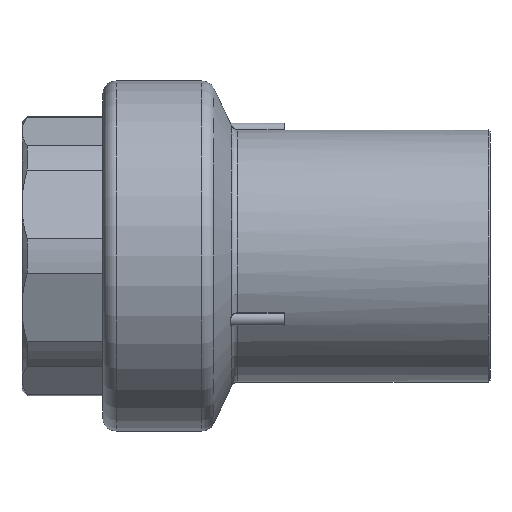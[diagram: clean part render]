
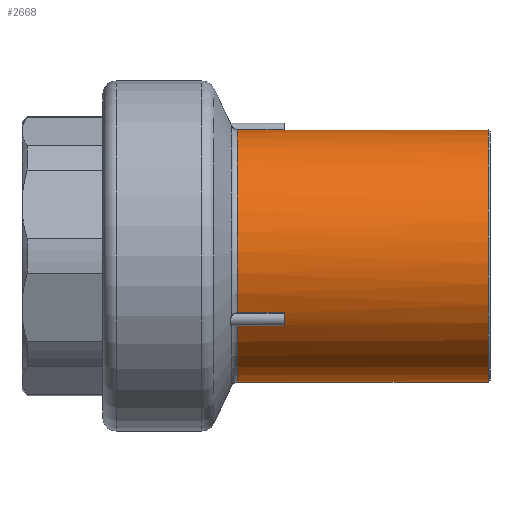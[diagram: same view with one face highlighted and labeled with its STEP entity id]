
A CAD part, front view. The second image highlights one B-rep face of the part: STEP entity #2668.
In plain terms, the highlighted cylindrical face has radius 37.5 mm (diameter 75 mm), a full revolution.
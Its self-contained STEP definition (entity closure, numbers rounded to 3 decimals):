
#65=B_SPLINE_CURVE_WITH_KNOTS('',3,(#4880,#4881,#4882,#4883),
 .UNSPECIFIED.,.F.,.F.,(4,4),(0.,0.),.UNSPECIFIED.);
#66=B_SPLINE_CURVE_WITH_KNOTS('',3,(#4896,#4897,#4898,#4899),
 .UNSPECIFIED.,.F.,.F.,(4,4),(0.,0.),.UNSPECIFIED.);
#75=B_SPLINE_CURVE_WITH_KNOTS('',3,(#5046,#5047,#5048,#5049),
 .UNSPECIFIED.,.F.,.F.,(4,4),(0.,0.),.UNSPECIFIED.);
#76=B_SPLINE_CURVE_WITH_KNOTS('',3,(#5062,#5063,#5064,#5065),
 .UNSPECIFIED.,.F.,.F.,(4,4),(0.,0.),.UNSPECIFIED.);
#79=B_SPLINE_CURVE_WITH_KNOTS('',3,(#5091,#5092,#5093,#5094),
 .UNSPECIFIED.,.F.,.F.,(4,4),(0.,0.),.UNSPECIFIED.);
#80=B_SPLINE_CURVE_WITH_KNOTS('',3,(#5098,#5099,#5100,#5101),
 .UNSPECIFIED.,.F.,.F.,(4,4),(0.,0.),.UNSPECIFIED.);
#177=LINE('',#4812,#341);
#180=LINE('',#4867,#344);
#181=LINE('',#4984,#345);
#184=LINE('',#5033,#348);
#185=LINE('',#5089,#349);
#186=LINE('',#5103,#350);
#341=VECTOR('',#3936,1000.);
#344=VECTOR('',#3961,1000.);
#345=VECTOR('',#3982,1000.);
#348=VECTOR('',#4007,1000.);
#349=VECTOR('',#4024,1000.);
#350=VECTOR('',#4027,1000.);
#869=ORIENTED_EDGE('',*,*,#1473,.F.);
#870=ORIENTED_EDGE('',*,*,#1478,.T.);
#871=ORIENTED_EDGE('',*,*,#1479,.F.);
#872=ORIENTED_EDGE('',*,*,#1480,.T.);
#873=ORIENTED_EDGE('',*,*,#1481,.F.);
#874=ORIENTED_EDGE('',*,*,#1482,.T.);
#875=ORIENTED_EDGE('',*,*,#1445,.F.);
#876=ORIENTED_EDGE('',*,*,#1456,.T.);
#877=ORIENTED_EDGE('',*,*,#1471,.F.);
#878=ORIENTED_EDGE('',*,*,#1461,.T.);
#879=ORIENTED_EDGE('',*,*,#1472,.F.);
#880=ORIENTED_EDGE('',*,*,#1470,.T.);
#881=ORIENTED_EDGE('',*,*,#1416,.F.);
#882=ORIENTED_EDGE('',*,*,#1427,.T.);
#883=ORIENTED_EDGE('',*,*,#1443,.F.);
#884=ORIENTED_EDGE('',*,*,#1433,.T.);
#885=ORIENTED_EDGE('',*,*,#1444,.F.);
#886=ORIENTED_EDGE('',*,*,#1442,.T.);
#887=ORIENTED_EDGE('',*,*,#1483,.T.);
#1416=EDGE_CURVE('',#1767,#1768,#1994,.T.);
#1427=EDGE_CURVE('',#1767,#1776,#177,.F.);
#1433=EDGE_CURVE('',#1781,#1780,#2002,.F.);
#1442=EDGE_CURVE('',#1784,#1777,#180,.T.);
#1443=EDGE_CURVE('',#1781,#1776,#65,.T.);
#1444=EDGE_CURVE('',#1784,#1780,#66,.T.);
#1445=EDGE_CURVE('',#1785,#1786,#2008,.T.);
#1456=EDGE_CURVE('',#1785,#1793,#181,.F.);
#1461=EDGE_CURVE('',#1797,#1796,#2016,.F.);
#1470=EDGE_CURVE('',#1800,#1768,#184,.T.);
#1471=EDGE_CURVE('',#1797,#1793,#75,.T.);
#1472=EDGE_CURVE('',#1800,#1796,#76,.T.);
#1473=EDGE_CURVE('',#1801,#1777,#2022,.T.);
#1478=EDGE_CURVE('',#1801,#1804,#185,.F.);
#1479=EDGE_CURVE('',#1805,#1804,#79,.T.);
#1480=EDGE_CURVE('',#1805,#1806,#2025,.F.);
#1481=EDGE_CURVE('',#1807,#1806,#80,.T.);
#1482=EDGE_CURVE('',#1807,#1786,#186,.T.);
#1483=EDGE_CURVE('',#1808,#1808,#2026,.F.);
#1767=VERTEX_POINT('',#4731);
#1768=VERTEX_POINT('',#4732);
#1776=VERTEX_POINT('',#4811);
#1777=VERTEX_POINT('',#4830);
#1780=VERTEX_POINT('',#4845);
#1781=VERTEX_POINT('',#4847);
#1784=VERTEX_POINT('',#4865);
#1785=VERTEX_POINT('',#4904);
#1786=VERTEX_POINT('',#4905);
#1793=VERTEX_POINT('',#4983);
#1796=VERTEX_POINT('',#5011);
#1797=VERTEX_POINT('',#5013);
#1800=VERTEX_POINT('',#5031);
#1801=VERTEX_POINT('',#5070);
#1804=VERTEX_POINT('',#5090);
#1805=VERTEX_POINT('',#5095);
#1806=VERTEX_POINT('',#5097);
#1807=VERTEX_POINT('',#5102);
#1808=VERTEX_POINT('',#5105);
#1994=CIRCLE('',#3424,37.5);
#2002=CIRCLE('',#3434,37.5);
#2008=CIRCLE('',#3445,37.5);
#2016=CIRCLE('',#3455,37.5);
#2022=CIRCLE('',#3466,37.5);
#2025=CIRCLE('',#3471,37.5);
#2026=CIRCLE('',#3472,37.5);
#2212=EDGE_LOOP('',(#869,#870,#871,#872,#873,#874,#875,#876,#877,#878,#879,
#880,#881,#882,#883,#884,#885,#886));
#2213=EDGE_LOOP('',(#887));
#2430=FACE_BOUND('',#2212,.T.);
#2431=FACE_BOUND('',#2213,.T.);
#2568=CYLINDRICAL_SURFACE('',#3470,37.5);
#2668=ADVANCED_FACE('',(#2430,#2431),#2568,.T.);
#3424=AXIS2_PLACEMENT_3D('',#4730,#3922,#3923);
#3434=AXIS2_PLACEMENT_3D('',#4846,#3944,#3945);
#3445=AXIS2_PLACEMENT_3D('',#4903,#3968,#3969);
#3455=AXIS2_PLACEMENT_3D('',#5012,#3990,#3991);
#3466=AXIS2_PLACEMENT_3D('',#5069,#4014,#4015);
#3470=AXIS2_PLACEMENT_3D('',#5088,#4022,#4023);
#3471=AXIS2_PLACEMENT_3D('',#5096,#4025,#4026);
#3472=AXIS2_PLACEMENT_3D('',#5104,#4028,#4029);
#3922=DIRECTION('',(-1.,0.,0.));
#3923=DIRECTION('',(0.,0.,1.));
#3936=DIRECTION('',(-1.,0.,0.));
#3944=DIRECTION('',(-1.,0.,0.));
#3945=DIRECTION('',(0.,0.5,0.866));
#3961=DIRECTION('',(-1.,0.,0.));
#3968=DIRECTION('',(-1.,0.,0.));
#3969=DIRECTION('',(0.,0.,1.));
#3982=DIRECTION('',(-1.,0.,0.));
#3990=DIRECTION('',(-1.,0.,0.));
#3991=DIRECTION('',(0.,0.5,-0.866));
#4007=DIRECTION('',(-1.,0.,0.));
#4014=DIRECTION('',(-1.,0.,0.));
#4015=DIRECTION('',(0.,0.,1.));
#4022=DIRECTION('',(-1.,0.,0.));
#4023=DIRECTION('',(0.,0.,1.));
#4024=DIRECTION('',(-1.,0.,0.));
#4025=DIRECTION('',(-1.,0.,0.));
#4026=DIRECTION('',(0.,-1.,0.));
#4027=DIRECTION('',(-1.,0.,0.));
#4028=DIRECTION('',(1.,0.,0.));
#4029=DIRECTION('',(0.,0.,-1.));
#4730=CARTESIAN_POINT('',(40.,0.,0.));
#4731=CARTESIAN_POINT('',(40.,31.379,-20.533));
#4732=CARTESIAN_POINT('',(40.,-31.379,-20.533));
#4811=CARTESIAN_POINT('',(53.9,31.379,-20.533));
#4812=CARTESIAN_POINT('',(-60.,31.379,-20.533));
#4830=CARTESIAN_POINT('',(40.,33.472,-16.909));
#4845=CARTESIAN_POINT('',(54.1,33.381,-17.088));
#4846=CARTESIAN_POINT('',(54.1,0.,0.));
#4847=CARTESIAN_POINT('',(54.1,31.489,-20.365));
#4865=CARTESIAN_POINT('',(53.9,33.472,-16.909));
#4867=CARTESIAN_POINT('',(-60.,33.472,-16.909));
#4880=CARTESIAN_POINT('',(54.1,31.489,-20.365));
#4881=CARTESIAN_POINT('',(54.1,31.431,-20.453));
#4882=CARTESIAN_POINT('',(54.006,31.379,-20.533));
#4883=CARTESIAN_POINT('',(53.9,31.379,-20.533));
#4896=CARTESIAN_POINT('',(53.9,33.472,-16.909));
#4897=CARTESIAN_POINT('',(54.006,33.472,-16.909));
#4898=CARTESIAN_POINT('',(54.1,33.429,-16.993));
#4899=CARTESIAN_POINT('',(54.1,33.381,-17.088));
#4903=CARTESIAN_POINT('',(40.,0.,0.));
#4904=CARTESIAN_POINT('',(40.,-33.472,-16.909));
#4905=CARTESIAN_POINT('',(40.,-2.092,37.442));
#4983=CARTESIAN_POINT('',(53.9,-33.472,-16.909));
#4984=CARTESIAN_POINT('',(-60.,-33.472,-16.909));
#5011=CARTESIAN_POINT('',(54.1,-31.489,-20.365));
#5012=CARTESIAN_POINT('',(54.1,0.,0.));
#5013=CARTESIAN_POINT('',(54.1,-33.381,-17.088));
#5031=CARTESIAN_POINT('',(53.9,-31.379,-20.533));
#5033=CARTESIAN_POINT('',(-60.,-31.379,-20.533));
#5046=CARTESIAN_POINT('',(54.1,-33.381,-17.088));
#5047=CARTESIAN_POINT('',(54.1,-33.429,-16.993));
#5048=CARTESIAN_POINT('',(54.006,-33.472,-16.909));
#5049=CARTESIAN_POINT('',(53.9,-33.472,-16.909));
#5062=CARTESIAN_POINT('',(53.9,-31.379,-20.533));
#5063=CARTESIAN_POINT('',(54.006,-31.379,-20.533));
#5064=CARTESIAN_POINT('',(54.1,-31.431,-20.453));
#5065=CARTESIAN_POINT('',(54.1,-31.489,-20.365));
#5069=CARTESIAN_POINT('',(40.,0.,0.));
#5070=CARTESIAN_POINT('',(40.,2.092,37.442));
#5088=CARTESIAN_POINT('',(-60.,0.,0.));
#5089=CARTESIAN_POINT('',(-60.,2.092,37.442));
#5090=CARTESIAN_POINT('',(53.9,2.092,37.442));
#5091=CARTESIAN_POINT('',(54.1,1.892,37.452));
#5092=CARTESIAN_POINT('',(54.1,1.998,37.447));
#5093=CARTESIAN_POINT('',(54.006,2.092,37.442));
#5094=CARTESIAN_POINT('',(53.9,2.092,37.442));
#5095=CARTESIAN_POINT('',(54.1,1.892,37.452));
#5096=CARTESIAN_POINT('',(54.1,0.,0.));
#5097=CARTESIAN_POINT('',(54.1,-1.892,37.452));
#5098=CARTESIAN_POINT('',(53.9,-2.092,37.442));
#5099=CARTESIAN_POINT('',(54.006,-2.092,37.442));
#5100=CARTESIAN_POINT('',(54.1,-1.998,37.447));
#5101=CARTESIAN_POINT('',(54.1,-1.892,37.452));
#5102=CARTESIAN_POINT('',(53.9,-2.092,37.442));
#5103=CARTESIAN_POINT('',(-60.,-2.092,37.442));
#5104=CARTESIAN_POINT('',(114.5,0.,0.));
#5105=CARTESIAN_POINT('',(114.5,0.,-37.5));
